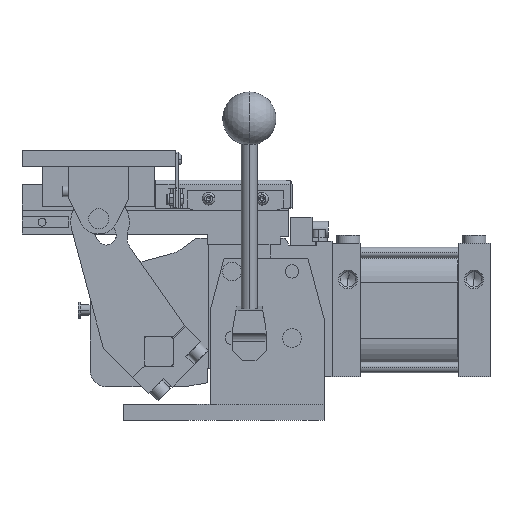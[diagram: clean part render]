
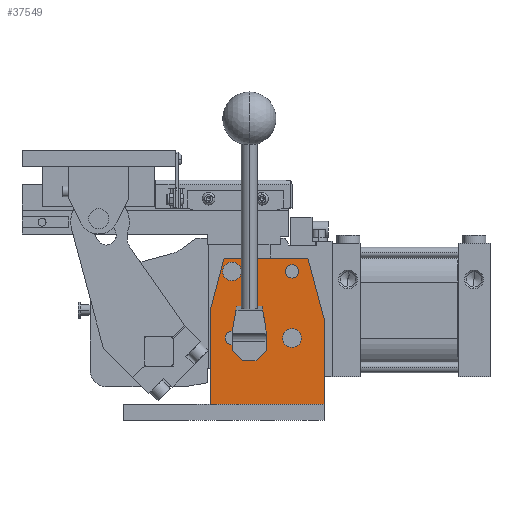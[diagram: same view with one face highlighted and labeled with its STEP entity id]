
A CAD part, front view. The second image highlights one B-rep face of the part: STEP entity #37549.
In plain terms, the highlighted planar face has unit normal (0, -1, 0) as drawn and (0, 0, 1) by its records, which use the part's own axes.
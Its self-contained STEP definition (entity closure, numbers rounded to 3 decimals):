
#257 = DIRECTION ( 'NONE',  ( 0., 0., 1. ) ) ;
#907 = ORIENTED_EDGE ( 'NONE', *, *, #40433, .F. ) ;
#1157 = LINE ( 'NONE', #10586, #12639 ) ;
#1225 = CARTESIAN_POINT ( 'NONE',  ( -51.5, -39., 39. ) ) ;
#1534 = EDGE_CURVE ( 'NONE', #39568, #18284, #2704, .T. ) ;
#1693 = ORIENTED_EDGE ( 'NONE', *, *, #8517, .F. ) ;
#2087 = AXIS2_PLACEMENT_3D ( 'NONE', #28058, #2914, #12334 ) ;
#2704 = CIRCLE ( 'NONE', #39945, 6.875 ) ;
#2724 = EDGE_CURVE ( 'NONE', #18329, #29684, #31593, .T. ) ;
#2748 = CARTESIAN_POINT ( 'NONE',  ( 60., -55., 39. ) ) ;
#2870 = AXIS2_PLACEMENT_3D ( 'NONE', #9868, #34789, #12741 ) ;
#2914 = DIRECTION ( 'NONE',  ( 0., 0., 1. ) ) ;
#3446 = DIRECTION ( 'NONE',  ( -1., 0., 0. ) ) ;
#4047 = DIRECTION ( 'NONE',  ( 1., 0., 0. ) ) ;
#4111 = LINE ( 'NONE', #1225, #8585 ) ;
#4470 = AXIS2_PLACEMENT_3D ( 'NONE', #30565, #39993, #15472 ) ;
#4878 = CARTESIAN_POINT ( 'NONE',  ( 70., -49.048, 39. ) ) ;
#5273 = CARTESIAN_POINT ( 'NONE',  ( -39.5, -39., 39. ) ) ;
#5937 = ORIENTED_EDGE ( 'NONE', *, *, #13712, .T. ) ;
#6027 = VECTOR ( 'NONE', #7871, 1000. ) ;
#6165 = CARTESIAN_POINT ( 'NONE',  ( 6.5, -68., 39. ) ) ;
#6201 = EDGE_CURVE ( 'NONE', #16725, #9517, #25341, .T. ) ;
#6254 = CARTESIAN_POINT ( 'NONE',  ( 10., -55., 39. ) ) ;
#6268 = ORIENTED_EDGE ( 'NONE', *, *, #6201, .F. ) ;
#6294 = CARTESIAN_POINT ( 'NONE',  ( -0.375, -68., 39. ) ) ;
#6663 = EDGE_CURVE ( 'NONE', #8011, #10730, #10035, .T. ) ;
#7069 = EDGE_CURVE ( 'NONE', #19737, #27978, #12758, .T. ) ;
#7661 = VERTEX_POINT ( 'NONE', #7820 ) ;
#7712 = CARTESIAN_POINT ( 'NONE',  ( 15., -55., 39. ) ) ;
#7820 = CARTESIAN_POINT ( 'NONE',  ( 70., -111.942, 39. ) ) ;
#7871 = DIRECTION ( 'NONE',  ( 0.966, 0.259, 0. ) ) ;
#8011 = VERTEX_POINT ( 'NONE', #5273 ) ;
#8015 = VERTEX_POINT ( 'NONE', #4878 ) ;
#8517 = EDGE_CURVE ( 'NONE', #18284, #39568, #37367, .T. ) ;
#8533 = VERTEX_POINT ( 'NONE', #25380 ) ;
#8585 = VECTOR ( 'NONE', #13945, 1000. ) ;
#8915 = DIRECTION ( 'NONE',  ( 0., 0., 1. ) ) ;
#9103 = CARTESIAN_POINT ( 'NONE',  ( 0., 0., 39. ) ) ;
#9517 = VERTEX_POINT ( 'NONE', #18862 ) ;
#9763 = LINE ( 'NONE', #15503, #15456 ) ;
#9829 = EDGE_LOOP ( 'NONE', ( #1693, #26928 ) ) ;
#9868 = CARTESIAN_POINT ( 'NONE',  ( 10., -100., 39. ) ) ;
#9910 = CARTESIAN_POINT ( 'NONE',  ( -39.5, -124., 39. ) ) ;
#9916 = CARTESIAN_POINT ( 'NONE',  ( 53., -55., 39. ) ) ;
#10035 = LINE ( 'NONE', #22507, #40107 ) ;
#10586 = CARTESIAN_POINT ( 'NONE',  ( 25., -124., 39. ) ) ;
#10730 = VERTEX_POINT ( 'NONE', #9910 ) ;
#10754 = CARTESIAN_POINT ( 'NONE',  ( 70., -49.048, 39. ) ) ;
#11051 = ORIENTED_EDGE ( 'NONE', *, *, #15325, .T. ) ;
#11187 = CARTESIAN_POINT ( 'NONE',  ( 5., -55., 39. ) ) ;
#11367 = EDGE_CURVE ( 'NONE', #8533, #12470, #34491, .T. ) ;
#11611 = ORIENTED_EDGE ( 'NONE', *, *, #2724, .F. ) ;
#12170 = PLANE ( 'NONE',  #37795 ) ;
#12334 = DIRECTION ( 'NONE',  ( -1., 0., 0. ) ) ;
#12470 = VERTEX_POINT ( 'NONE', #9916 ) ;
#12639 = VECTOR ( 'NONE', #4047, 1000. ) ;
#12741 = DIRECTION ( 'NONE',  ( -1., 0., 0. ) ) ;
#12758 = CIRCLE ( 'NONE', #28413, 5. ) ;
#12806 = EDGE_LOOP ( 'NONE', ( #35942, #907 ) ) ;
#12878 = EDGE_CURVE ( 'NONE', #9517, #16725, #40110, .T. ) ;
#13640 = AXIS2_PLACEMENT_3D ( 'NONE', #2748, #8915, #40195 ) ;
#13697 = EDGE_LOOP ( 'NONE', ( #11051, #36584, #5937, #18281, #34857, #28333 ) ) ;
#13712 = EDGE_CURVE ( 'NONE', #10730, #16515, #1157, .T. ) ;
#13945 = DIRECTION ( 'NONE',  ( -1., 0., 0. ) ) ;
#14026 = AXIS2_PLACEMENT_3D ( 'NONE', #33805, #14452, #18103 ) ;
#14335 = CARTESIAN_POINT ( 'NONE',  ( 32.5, -39., 39. ) ) ;
#14452 = DIRECTION ( 'NONE',  ( 0., 0., 1. ) ) ;
#15325 = EDGE_CURVE ( 'NONE', #27776, #8011, #4111, .T. ) ;
#15456 = VECTOR ( 'NONE', #37759, 1000. ) ;
#15472 = DIRECTION ( 'NONE',  ( -1., 0., 0. ) ) ;
#15503 = CARTESIAN_POINT ( 'NONE',  ( 70., -49.048, 39. ) ) ;
#15790 = DIRECTION ( 'NONE',  ( 1., 0., 0. ) ) ;
#15916 = ORIENTED_EDGE ( 'NONE', *, *, #40389, .F. ) ;
#15946 = AXIS2_PLACEMENT_3D ( 'NONE', #16133, #34518, #3446 ) ;
#16133 = CARTESIAN_POINT ( 'NONE',  ( 60., -55., 39. ) ) ;
#16515 = VERTEX_POINT ( 'NONE', #26131 ) ;
#16725 = VERTEX_POINT ( 'NONE', #39241 ) ;
#18103 = DIRECTION ( 'NONE',  ( -1., 0., 0. ) ) ;
#18281 = ORIENTED_EDGE ( 'NONE', *, *, #22276, .T. ) ;
#18284 = VERTEX_POINT ( 'NONE', #23551 ) ;
#18329 = VERTEX_POINT ( 'NONE', #24550 ) ;
#18544 = CARTESIAN_POINT ( 'NONE',  ( 6.5, -68., 39. ) ) ;
#18710 = FACE_BOUND ( 'NONE', #9829, .T. ) ;
#18735 = DIRECTION ( 'NONE',  ( 0., 0., 1. ) ) ;
#18862 = CARTESIAN_POINT ( 'NONE',  ( 3., -100., 39. ) ) ;
#18906 = FACE_BOUND ( 'NONE', #30614, .T. ) ;
#19048 = CIRCLE ( 'NONE', #2087, 5. ) ;
#19680 = CARTESIAN_POINT ( 'NONE',  ( 10., -55., 39. ) ) ;
#19737 = VERTEX_POINT ( 'NONE', #11187 ) ;
#20797 = ORIENTED_EDGE ( 'NONE', *, *, #11367, .F. ) ;
#21937 = DIRECTION ( 'NONE',  ( 0., 0., 1. ) ) ;
#22276 = EDGE_CURVE ( 'NONE', #16515, #7661, #29129, .T. ) ;
#22335 = AXIS2_PLACEMENT_3D ( 'NONE', #19680, #257, #31723 ) ;
#22507 = CARTESIAN_POINT ( 'NONE',  ( -39.5, 0., 39. ) ) ;
#23527 = EDGE_CURVE ( 'NONE', #12470, #8533, #28323, .T. ) ;
#23551 = CARTESIAN_POINT ( 'NONE',  ( 13.375, -68., 39. ) ) ;
#24550 = CARTESIAN_POINT ( 'NONE',  ( 65., -100., 39. ) ) ;
#24759 = ORIENTED_EDGE ( 'NONE', *, *, #12878, .F. ) ;
#24838 = FACE_BOUND ( 'NONE', #35269, .T. ) ;
#24882 = DIRECTION ( 'NONE',  ( 0., 0., 1. ) ) ;
#25341 = CIRCLE ( 'NONE', #4470, 7. ) ;
#25380 = CARTESIAN_POINT ( 'NONE',  ( 67., -55., 39. ) ) ;
#26131 = CARTESIAN_POINT ( 'NONE',  ( 25., -124., 39. ) ) ;
#26488 = DIRECTION ( 'NONE',  ( 0., 1., 0. ) ) ;
#26928 = ORIENTED_EDGE ( 'NONE', *, *, #1534, .F. ) ;
#27518 = ORIENTED_EDGE ( 'NONE', *, *, #23527, .F. ) ;
#27776 = VERTEX_POINT ( 'NONE', #14335 ) ;
#27978 = VERTEX_POINT ( 'NONE', #7712 ) ;
#28058 = CARTESIAN_POINT ( 'NONE',  ( 60., -100., 39. ) ) ;
#28092 = FACE_OUTER_BOUND ( 'NONE', #13697, .T. ) ;
#28292 = DIRECTION ( 'NONE',  ( 0., 0., -1. ) ) ;
#28323 = CIRCLE ( 'NONE', #15946, 7. ) ;
#28333 = ORIENTED_EDGE ( 'NONE', *, *, #36142, .T. ) ;
#28413 = AXIS2_PLACEMENT_3D ( 'NONE', #6254, #18735, #31176 ) ;
#28500 = FACE_BOUND ( 'NONE', #33881, .T. ) ;
#28812 = DIRECTION ( 'NONE',  ( 0., -1., 0. ) ) ;
#29129 = LINE ( 'NONE', #29736, #6027 ) ;
#29480 = CIRCLE ( 'NONE', #22335, 5. ) ;
#29560 = EDGE_CURVE ( 'NONE', #7661, #8015, #35078, .T. ) ;
#29684 = VERTEX_POINT ( 'NONE', #34215 ) ;
#29736 = CARTESIAN_POINT ( 'NONE',  ( 70., -111.942, 39. ) ) ;
#30166 = AXIS2_PLACEMENT_3D ( 'NONE', #6165, #21937, #15790 ) ;
#30565 = CARTESIAN_POINT ( 'NONE',  ( 10., -100., 39. ) ) ;
#30614 = EDGE_LOOP ( 'NONE', ( #24759, #6268 ) ) ;
#31176 = DIRECTION ( 'NONE',  ( -1., 0., 0. ) ) ;
#31192 = DIRECTION ( 'NONE',  ( 1., 0., 0. ) ) ;
#31278 = VECTOR ( 'NONE', #26488, 1000. ) ;
#31356 = DIRECTION ( 'NONE',  ( -1., 0., 0. ) ) ;
#31593 = CIRCLE ( 'NONE', #14026, 5. ) ;
#31723 = DIRECTION ( 'NONE',  ( -1., 0., 0. ) ) ;
#33805 = CARTESIAN_POINT ( 'NONE',  ( 60., -100., 39. ) ) ;
#33881 = EDGE_LOOP ( 'NONE', ( #15916, #11611 ) ) ;
#34215 = CARTESIAN_POINT ( 'NONE',  ( 55., -100., 39. ) ) ;
#34226 = FACE_BOUND ( 'NONE', #12806, .T. ) ;
#34491 = CIRCLE ( 'NONE', #13640, 7. ) ;
#34518 = DIRECTION ( 'NONE',  ( 0., 0., 1. ) ) ;
#34789 = DIRECTION ( 'NONE',  ( 0., 0., 1. ) ) ;
#34857 = ORIENTED_EDGE ( 'NONE', *, *, #29560, .T. ) ;
#35078 = LINE ( 'NONE', #10754, #31278 ) ;
#35269 = EDGE_LOOP ( 'NONE', ( #27518, #20797 ) ) ;
#35942 = ORIENTED_EDGE ( 'NONE', *, *, #7069, .F. ) ;
#36142 = EDGE_CURVE ( 'NONE', #8015, #27776, #9763, .T. ) ;
#36584 = ORIENTED_EDGE ( 'NONE', *, *, #6663, .T. ) ;
#37367 = CIRCLE ( 'NONE', #30166, 6.875 ) ;
#37549 = ADVANCED_FACE ( 'NONE', ( #18710, #34226, #28500, #18906, #24838, #28092 ), #12170, .F. ) ;
#37759 = DIRECTION ( 'NONE',  ( -0.966, 0.259, 0. ) ) ;
#37795 = AXIS2_PLACEMENT_3D ( 'NONE', #9103, #28292, #31356 ) ;
#39241 = CARTESIAN_POINT ( 'NONE',  ( 17., -100., 39. ) ) ;
#39568 = VERTEX_POINT ( 'NONE', #6294 ) ;
#39945 = AXIS2_PLACEMENT_3D ( 'NONE', #18544, #24882, #31192 ) ;
#39993 = DIRECTION ( 'NONE',  ( 0., 0., 1. ) ) ;
#40107 = VECTOR ( 'NONE', #28812, 1000. ) ;
#40110 = CIRCLE ( 'NONE', #2870, 7. ) ;
#40195 = DIRECTION ( 'NONE',  ( -1., 0., 0. ) ) ;
#40389 = EDGE_CURVE ( 'NONE', #29684, #18329, #19048, .T. ) ;
#40433 = EDGE_CURVE ( 'NONE', #27978, #19737, #29480, .T. ) ;
